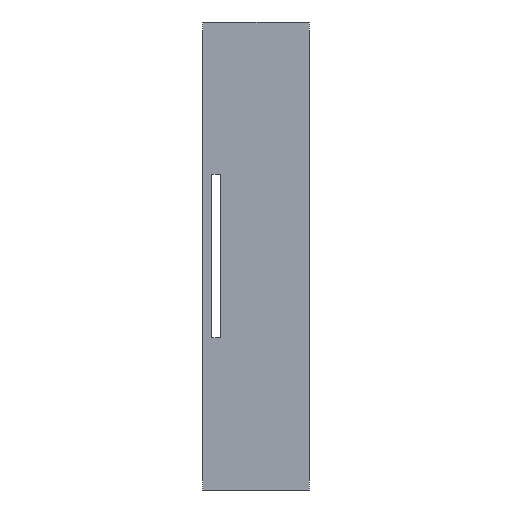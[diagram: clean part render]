
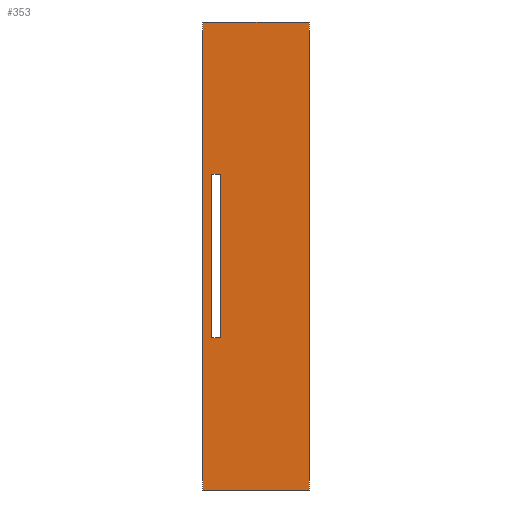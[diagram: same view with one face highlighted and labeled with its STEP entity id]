
A CAD part, left-side view. The second image highlights one B-rep face of the part: STEP entity #353.
In plain terms, the highlighted planar face has unit normal (-1, 0, 0).
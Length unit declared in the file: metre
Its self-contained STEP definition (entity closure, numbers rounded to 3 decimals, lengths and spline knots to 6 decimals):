
#36=ORIENTED_EDGE('',*,*,#132,.F.);
#37=ORIENTED_EDGE('',*,*,#133,.F.);
#38=ORIENTED_EDGE('',*,*,#134,.T.);
#39=ORIENTED_EDGE('',*,*,#135,.T.);
#40=ORIENTED_EDGE('',*,*,#136,.T.);
#41=ORIENTED_EDGE('',*,*,#137,.T.);
#42=ORIENTED_EDGE('',*,*,#138,.F.);
#43=ORIENTED_EDGE('',*,*,#139,.F.);
#132=EDGE_CURVE('',#180,#181,#212,.T.);
#133=EDGE_CURVE('',#182,#180,#213,.T.);
#134=EDGE_CURVE('',#182,#183,#214,.T.);
#135=EDGE_CURVE('',#183,#181,#215,.T.);
#136=EDGE_CURVE('',#184,#185,#216,.T.);
#137=EDGE_CURVE('',#185,#186,#217,.T.);
#138=EDGE_CURVE('',#187,#186,#218,.T.);
#139=EDGE_CURVE('',#184,#187,#219,.T.);
#180=VERTEX_POINT('',#539);
#181=VERTEX_POINT('',#540);
#182=VERTEX_POINT('',#542);
#183=VERTEX_POINT('',#544);
#184=VERTEX_POINT('',#547);
#185=VERTEX_POINT('',#548);
#186=VERTEX_POINT('',#550);
#187=VERTEX_POINT('',#552);
#212=LINE('',#538,#260);
#213=LINE('',#541,#261);
#214=LINE('',#543,#262);
#215=LINE('',#545,#263);
#216=LINE('',#546,#264);
#217=LINE('',#549,#265);
#218=LINE('',#551,#266);
#219=LINE('',#553,#267);
#260=VECTOR('',#433,1.);
#261=VECTOR('',#434,1.);
#262=VECTOR('',#435,1.);
#263=VECTOR('',#436,1.);
#264=VECTOR('',#437,1.);
#265=VECTOR('',#438,1.);
#266=VECTOR('',#439,1.);
#267=VECTOR('',#440,1.);
#290=EDGE_LOOP('',(#36,#37,#38,#39));
#291=EDGE_LOOP('',(#40,#41,#42,#43));
#314=FACE_BOUND('',#290,.T.);
#315=FACE_BOUND('',#291,.T.);
#335=PLANE('',#384);
#353=ADVANCED_FACE('',(#314,#315),#335,.T.);
#384=AXIS2_PLACEMENT_3D('',#537,#431,#432);
#431=DIRECTION('',(-1.,0.,0.));
#432=DIRECTION('',(0.,1.,0.));
#433=DIRECTION('',(0.,0.,1.));
#434=DIRECTION('',(0.,1.,0.));
#435=DIRECTION('',(0.,0.,1.));
#436=DIRECTION('',(0.,1.,0.));
#437=DIRECTION('',(0.,0.,1.));
#438=DIRECTION('',(0.,-1.,0.));
#439=DIRECTION('',(0.,0.,1.));
#440=DIRECTION('',(0.,-1.,0.));
#537=CARTESIAN_POINT('',(-0.6223,-0.1151,0.));
#538=CARTESIAN_POINT('',(-0.6223,0.0289,0.));
#539=CARTESIAN_POINT('',(-0.6223,0.0289,-0.3175));
#540=CARTESIAN_POINT('',(-0.6223,0.0289,0.3175));
#541=CARTESIAN_POINT('',(-0.6223,-0.1151,-0.3175));
#542=CARTESIAN_POINT('',(-0.6223,-0.1151,-0.3175));
#543=CARTESIAN_POINT('',(-0.6223,-0.1151,0.));
#544=CARTESIAN_POINT('',(-0.6223,-0.1151,0.3175));
#545=CARTESIAN_POINT('',(-0.6223,-0.1151,0.3175));
#546=CARTESIAN_POINT('',(-0.6223,0.016856,0.));
#547=CARTESIAN_POINT('',(-0.6223,0.016856,-0.110867));
#548=CARTESIAN_POINT('',(-0.6223,0.016856,0.110867));
#549=CARTESIAN_POINT('',(-0.6223,-0.1151,0.110867));
#550=CARTESIAN_POINT('',(-0.6223,0.005,0.110867));
#551=CARTESIAN_POINT('',(-0.6223,0.005,0.));
#552=CARTESIAN_POINT('',(-0.6223,0.005,-0.110867));
#553=CARTESIAN_POINT('',(-0.6223,-0.1151,-0.110867));
